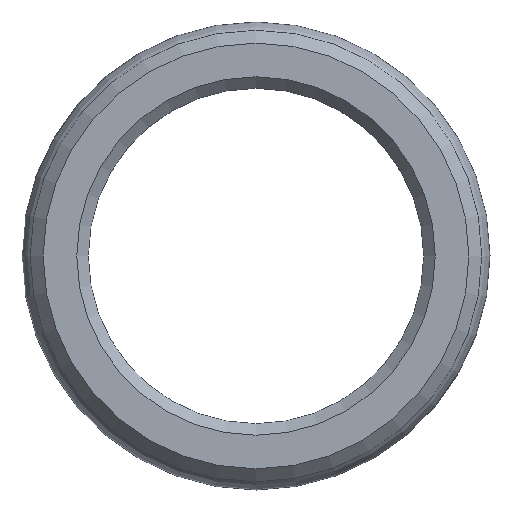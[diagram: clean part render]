
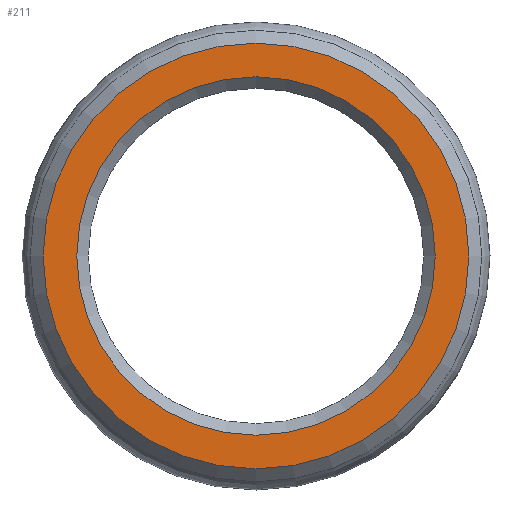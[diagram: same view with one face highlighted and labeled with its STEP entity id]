
A CAD part, front view. The second image highlights one B-rep face of the part: STEP entity #211.
In plain terms, the highlighted planar face has unit normal (0, -1, 0).
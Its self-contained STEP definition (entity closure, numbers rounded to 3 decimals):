
#66 = CONICAL_SURFACE('',#67,5.8,0.785);
#67 = AXIS2_PLACEMENT_3D('',#68,#69,#70);
#68 = CARTESIAN_POINT('',(0.,0.4,0.));
#69 = DIRECTION('',(-0.,-1.,0.));
#70 = DIRECTION('',(-1.,0.,0.));
#110 = VERTEX_POINT('',#111);
#111 = CARTESIAN_POINT('',(-6.2,0.,0.));
#132 = EDGE_CURVE('',#110,#110,#133,.T.);
#133 = SURFACE_CURVE('',#134,(#139,#146),.PCURVE_S1.);
#134 = CIRCLE('',#135,6.2);
#135 = AXIS2_PLACEMENT_3D('',#136,#137,#138);
#136 = CARTESIAN_POINT('',(0.,0.,0.));
#137 = DIRECTION('',(0.,1.,0.));
#138 = DIRECTION('',(-1.,0.,0.));
#139 = PCURVE('',#66,#140);
#140 = DEFINITIONAL_REPRESENTATION('',(#141),#145);
#141 = LINE('',#142,#143);
#142 = CARTESIAN_POINT('',(-0.,0.4));
#143 = VECTOR('',#144,1.);
#144 = DIRECTION('',(-1.,0.));
#145 = ( GEOMETRIC_REPRESENTATION_CONTEXT(2) 
PARAMETRIC_REPRESENTATION_CONTEXT() REPRESENTATION_CONTEXT('2D SPACE',''
  ) );
#146 = PCURVE('',#147,#152);
#147 = PLANE('',#148);
#148 = AXIS2_PLACEMENT_3D('',#149,#150,#151);
#149 = CARTESIAN_POINT('',(0.,0.,0.));
#150 = DIRECTION('',(0.,1.,0.));
#151 = DIRECTION('',(-1.,0.,0.));
#152 = DEFINITIONAL_REPRESENTATION('',(#153),#157);
#153 = CIRCLE('',#154,6.2);
#154 = AXIS2_PLACEMENT_2D('',#155,#156);
#155 = CARTESIAN_POINT('',(0.,0.));
#156 = DIRECTION('',(1.,0.));
#157 = ( GEOMETRIC_REPRESENTATION_CONTEXT(2) 
PARAMETRIC_REPRESENTATION_CONTEXT() REPRESENTATION_CONTEXT('2D SPACE',''
  ) );
#211 = ADVANCED_FACE('',(#212,#215),#147,.F.);
#212 = FACE_BOUND('',#213,.F.);
#213 = EDGE_LOOP('',(#214));
#214 = ORIENTED_EDGE('',*,*,#132,.F.);
#215 = FACE_BOUND('',#216,.F.);
#216 = EDGE_LOOP('',(#217));
#217 = ORIENTED_EDGE('',*,*,#218,.T.);
#218 = EDGE_CURVE('',#219,#219,#221,.T.);
#219 = VERTEX_POINT('',#220);
#220 = CARTESIAN_POINT('',(-7.364,0.,0.));
#221 = SURFACE_CURVE('',#222,(#227,#234),.PCURVE_S1.);
#222 = CIRCLE('',#223,7.364);
#223 = AXIS2_PLACEMENT_3D('',#224,#225,#226);
#224 = CARTESIAN_POINT('',(0.,0.,0.));
#225 = DIRECTION('',(0.,1.,0.));
#226 = DIRECTION('',(-1.,0.,0.));
#227 = PCURVE('',#147,#228);
#228 = DEFINITIONAL_REPRESENTATION('',(#229),#233);
#229 = CIRCLE('',#230,7.364);
#230 = AXIS2_PLACEMENT_2D('',#231,#232);
#231 = CARTESIAN_POINT('',(0.,0.));
#232 = DIRECTION('',(1.,0.));
#233 = ( GEOMETRIC_REPRESENTATION_CONTEXT(2) 
PARAMETRIC_REPRESENTATION_CONTEXT() REPRESENTATION_CONTEXT('2D SPACE',''
  ) );
#234 = PCURVE('',#235,#240);
#235 = CONICAL_SURFACE('',#236,7.364,0.785);
#236 = AXIS2_PLACEMENT_3D('',#237,#238,#239);
#237 = CARTESIAN_POINT('',(0.,0.,0.));
#238 = DIRECTION('',(0.,1.,0.));
#239 = DIRECTION('',(-1.,0.,0.));
#240 = DEFINITIONAL_REPRESENTATION('',(#241),#245);
#241 = LINE('',#242,#243);
#242 = CARTESIAN_POINT('',(0.,0.));
#243 = VECTOR('',#244,1.);
#244 = DIRECTION('',(1.,0.));
#245 = ( GEOMETRIC_REPRESENTATION_CONTEXT(2) 
PARAMETRIC_REPRESENTATION_CONTEXT() REPRESENTATION_CONTEXT('2D SPACE',''
  ) );
